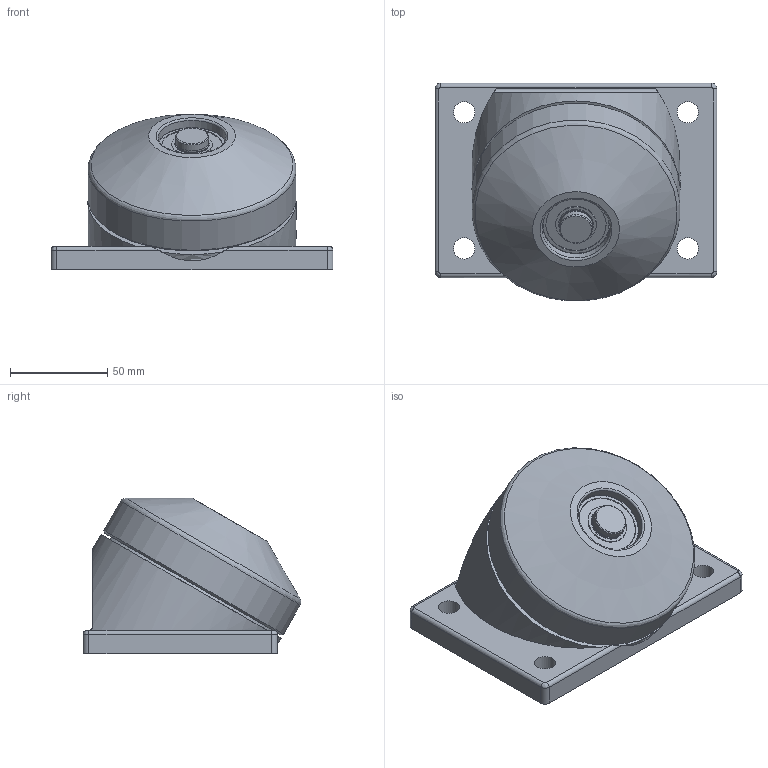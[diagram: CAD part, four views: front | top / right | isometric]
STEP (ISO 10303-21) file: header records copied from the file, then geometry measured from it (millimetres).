
FILE_DESCRIPTION(/* description */ (''),/* implementation_level */ '2;1');
FILE_NAME(/* name */ 'Z:\34-Tei\01-web 3Dデータ\SW車輪\SW-80-I.stp',/* time_stamp */ '2015-03-17T16:39:29+09:00',/* author */ ('yamaki'),/* organization */ (''),/* preprocessor_version */ 'ST-DEVELOPER v15.6',/* originating_system */ 'Autodesk Inventor 2015',/* authorisation */ '');
FILE_SCHEMA (('AUTOMOTIVE_DESIGN { 1 0 10303 214 3 1 1 }'));
Length unit declared in the file: centimetre
Products named in the file (1): SW-80-I
Bounding box: 145 x 112.02 x 79.96 mm (x, y, z)
Volume: 465468 mm3; surface area: 90957.3 mm2
Topology: 1 solids, 1 shells, 99 faces, 212 edges, 133 vertices
Faces by surface type: cylinder 41, plane 31, cone 16, torus 7, bspline 4
Full cylindrical faces by diameter (mm): 3.5 x1, 4.917 x1, 8 x1, 11 x4, 16.2 x1, 17 x3, 21 x2, 25 x1, 26 x1, 29 x1, 31 x2, 35 x1, 35.1 x1, 40 x1, 78.1 x1, 84 x1, 85 x1, 107 x1
Entity records: 2606 total; most frequent: CARTESIAN_POINT 526, DIRECTION 442, ORIENTED_EDGE 298, AXIS2_PLACEMENT_3D 207, EDGE_LOOP 177, EDGE_CURVE 149, VERTEX_POINT 118, CIRCLE 102
